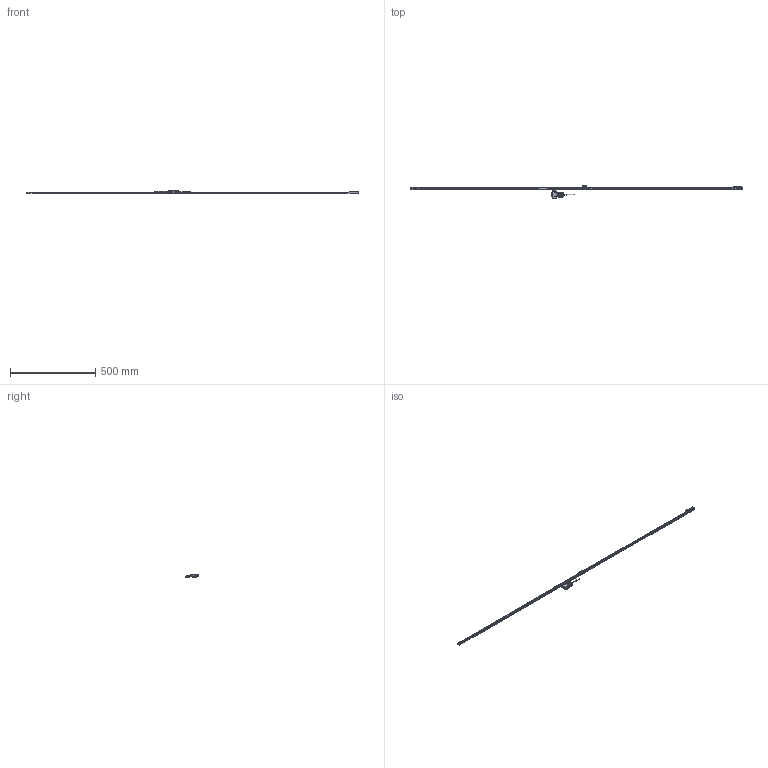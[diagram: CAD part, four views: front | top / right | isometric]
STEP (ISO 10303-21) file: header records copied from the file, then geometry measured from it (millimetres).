
FILE_DESCRIPTION(('Creo Elements/Direct Modeling STEP Export'),'2;1');
FILE_NAME('ST46EZA-1800D.stp','2018-03-22T17:48:41',(''),(''),'Creo Elements/Direct Modeling STEP processor for AP214 (Solid Model)','Creo Elements/Direct Modeling 18.1B 29-Sep-2012 (C) Parametric Technology GmbH','');
FILE_SCHEMA(('AUTOMOTIVE_DESIGN { 1 0 10303 214 1 1 1 1 }'));
Length unit declared in the file: millimetre
Products named in the file (4): Detector_Head; IF_Unit; Scale_1800; ST46EZA-1800D
Assembly tree (3 placements, depth 2):
  ST46EZA-1800D
    Scale_1800
    IF_Unit
    Detector_Head
Bounding box: 1942 x 74.86 x 18.68 mm (x, y, z)
Volume: 3158.7 mm3; surface area: 115882.6 mm2
Topology: 1 solids, 4 shells, 2661 faces, 7136 edges, 4657 vertices
Faces by surface type: plane 1590, cylinder 886, extrusion 84, cone 38, torus 30, bspline 29, revolution 4
Entity records: 89634 total; most frequent: CARTESIAN_POINT 23360, ORIENTED_EDGE 14267, DIRECTION 12629, EDGE_CURVE 7138, VECTOR 4743, LINE 4679, VERTEX_POINT 4661, AXIS2_PLACEMENT_3D 3940
